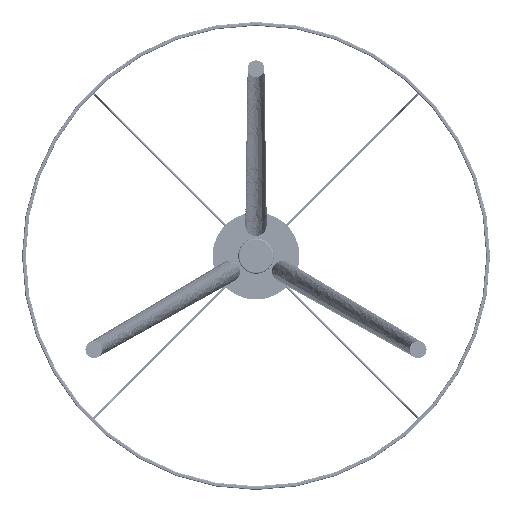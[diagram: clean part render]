
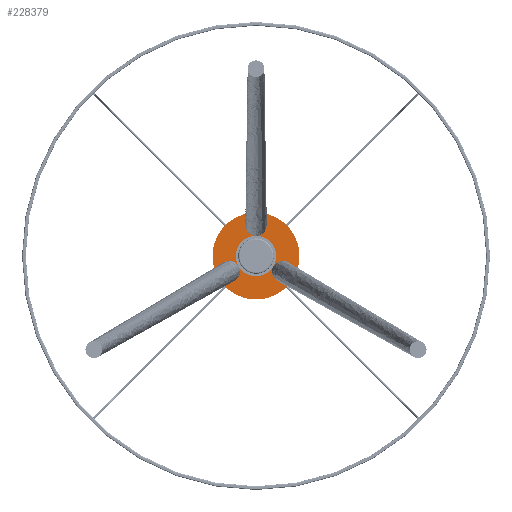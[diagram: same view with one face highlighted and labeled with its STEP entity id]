
A CAD part, front view. The second image highlights one B-rep face of the part: STEP entity #228379.
In plain terms, the highlighted planar face has unit normal (0, -1, 0).
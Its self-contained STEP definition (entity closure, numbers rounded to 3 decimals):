
#60666=FACE_BOUND('',#84483,.T.);
#61285=PLANE('',#246252);
#67957=FACE_OUTER_BOUND('',#84482,.T.);
#84482=EDGE_LOOP('',(#160041));
#84483=EDGE_LOOP('',(#160042));
#101589=CIRCLE('',#246247,21.6);
#101591=CIRCLE('',#246250,46.5);
#106548=VERTEX_POINT('',#361156);
#106550=VERTEX_POINT('',#361162);
#126328=EDGE_CURVE('',#106548,#106548,#101589,.T.);
#126331=EDGE_CURVE('',#106550,#106550,#101591,.F.);
#160041=ORIENTED_EDGE('',*,*,#126331,.F.);
#160042=ORIENTED_EDGE('',*,*,#126328,.F.);
#228379=ADVANCED_FACE('',(#67957,#60666),#61285,.F.);
#246247=AXIS2_PLACEMENT_3D('',#361158,#275760,#275761);
#246250=AXIS2_PLACEMENT_3D('',#361164,#275767,#275768);
#246252=AXIS2_PLACEMENT_3D('',#361166,#275771,#275772);
#275760=DIRECTION('center_axis',(0.,-1.,0.));
#275761=DIRECTION('ref_axis',(-1.,0.,0.));
#275767=DIRECTION('center_axis',(0.,-1.,0.));
#275768=DIRECTION('ref_axis',(-1.,0.,0.));
#275771=DIRECTION('center_axis',(0.,1.,0.));
#275772=DIRECTION('ref_axis',(-1.,0.,0.));
#361156=CARTESIAN_POINT('',(21.6,168.347,0.));
#361158=CARTESIAN_POINT('Origin',(0.,168.347,0.));
#361162=CARTESIAN_POINT('',(46.5,168.347,0.));
#361164=CARTESIAN_POINT('Origin',(0.,168.347,
0.));
#361166=CARTESIAN_POINT('Origin',(0.,168.347,
0.));
